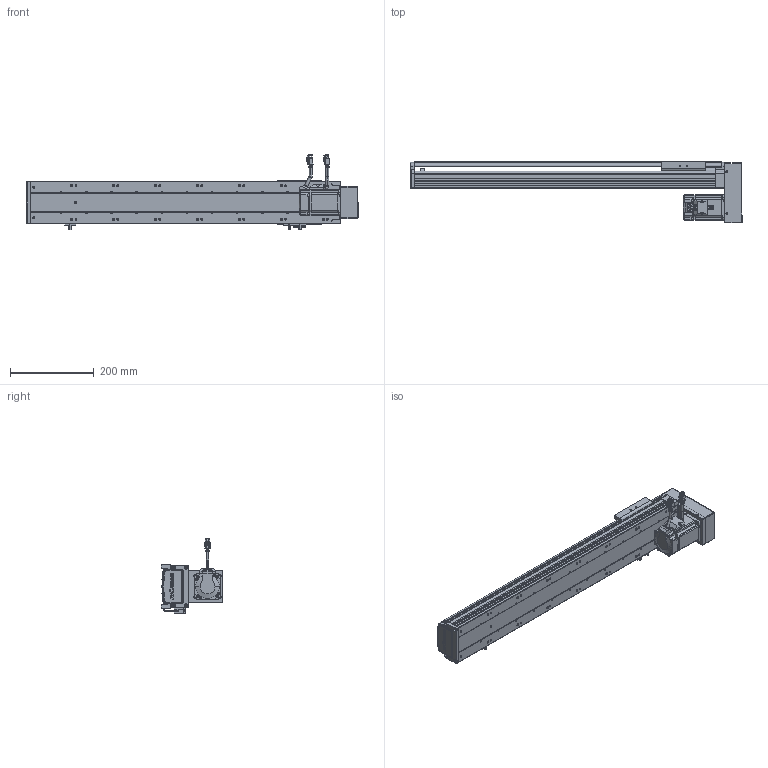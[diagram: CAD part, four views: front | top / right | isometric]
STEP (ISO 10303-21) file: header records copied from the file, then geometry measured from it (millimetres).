
FILE_DESCRIPTION (( 'STEP AP203' ), '1' );
FILE_NAME ('RY100S-L1620-300-BK(15双轨).SLDASM_550.step', '2021-02-20T08:23:16', ( '盈信电脑' ), ( '东莞市道滘镇水果街19号' ), 'SwSTEP 2.0', 'SolidWorks 2012', '' );
FILE_SCHEMA (( 'CONFIG_CONTROL_DESIGN' ));
Products named in the file (26): RY100S-狟殏萇儂郪; RY100S下折电机安装板（15双轨）; RY100S-L1620-300-BK(15邧寢).SLDASM_550; 7; 肮祭湍5M遵15笚酗260; 6; 侂狟200W萇儂; 2; 4; 3; 5; RY80肮祭湍覃踡啣; 3M30喘15遵; 1; RY100S狟殏萇儂欶(15邧寢); RY80肮祭湍芢雄輸; RY100S转折电机端支撑座(15双轨); RY100S-絳寢EGH15-350-LK(腴郪15邧寢)_550; RY100綴裔啣; 滅袉蝶18-24; RY100俋离覜茼え; 滅袉蝶18-10; 覜茼ん672; RY100S-300-LK转折型材上盖(15双轨)_550; RY100S铝滑块（15双轨单滑块）底组装导轨; RY100S-350-LK型材底座(低组15双轨)_550
Assembly tree (28 placements, depth 4):
  RY100S-L1620-300-BK(15邧寢).SLDASM_550
    RY100S-350-LK型材底座(低组15双轨)_550
    RY100S-300-LK转折型材上盖(15双轨)_550
    RY100S铝滑块（15双轨单滑块）底组装导轨
    覜茼ん672  x3
    滅袉蝶18-10
    RY100俋离覜茼え
    RY100S转折电机端支撑座(15双轨)
    滅袉蝶18-24
    RY100綴裔啣
    RY100S-絳寢EGH15-350-LK(腴郪15邧寢)_550
    RY100S-狟殏萇儂郪
      RY80肮祭湍芢雄輸  x2
      RY100S狟殏萇儂欶(15邧寢)
      3M30喘15遵
      RY80肮祭湍覃踡啣
      侂狟200W萇儂
        1
        2
        3
        4
        5
        6
        7
      肮祭湍5M遵15笚酗260
      RY100S下折电机安装板（15双轨）
Bounding box: 792 x 147 x 179.5 mm (x, y, z)
Volume: 2096427.3 mm3; surface area: 810551 mm2
Topology: 26 solids, 26 shells, 3289 faces, 8845 edges, 5704 vertices
Faces by surface type: plane 1725, cylinder 1281, cone 169, bspline 114
Entity records: 106951 total; most frequent: CARTESIAN_POINT 26453, ORIENTED_EDGE 16394, DIRECTION 15936, EDGE_CURVE 8197, AXIS2_PLACEMENT_3D 5453, VERTEX_POINT 5340, LINE 5030, VECTOR 5030
